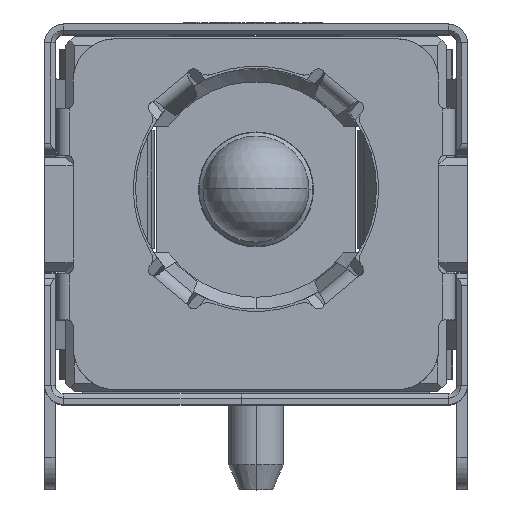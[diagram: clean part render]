
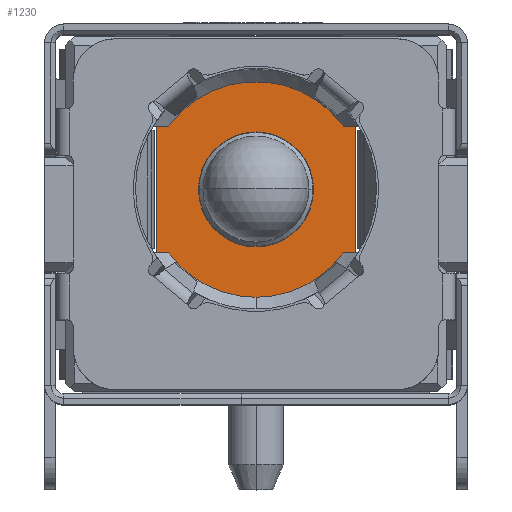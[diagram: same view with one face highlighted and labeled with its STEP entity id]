
A CAD part, top view. The second image highlights one B-rep face of the part: STEP entity #1230.
In plain terms, the highlighted planar face has unit normal (0, 0, 1).
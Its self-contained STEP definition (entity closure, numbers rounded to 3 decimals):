
#175 = CARTESIAN_POINT ( 'NONE',  ( 0., 0., 5.7 ) ) ;
#991 = DIRECTION ( 'NONE',  ( -0.809, 0.588, 0. ) ) ;
#1230 = ADVANCED_FACE ( 'NONE', ( #32764, #39873 ), #1698, .T. ) ;
#1322 = ORIENTED_EDGE ( 'NONE', *, *, #25763, .T. ) ;
#1698 = PLANE ( 'NONE',  #39798 ) ;
#2232 = ORIENTED_EDGE ( 'NONE', *, *, #26530, .F. ) ;
#2287 = LINE ( 'NONE', #26898, #23408 ) ;
#2611 = AXIS2_PLACEMENT_3D ( 'NONE', #24204, #6709, #44863 ) ;
#2738 = EDGE_CURVE ( 'NONE', #4355, #16660, #2287, .T. ) ;
#2890 = CARTESIAN_POINT ( 'NONE',  ( -2.062, 1.5, 5.7 ) ) ;
#3291 = VERTEX_POINT ( 'NONE', #28100 ) ;
#4355 = VERTEX_POINT ( 'NONE', #12040 ) ;
#4512 = VERTEX_POINT ( 'NONE', #15712 ) ;
#4662 = CARTESIAN_POINT ( 'NONE',  ( -2.35, 1.5, 5.7 ) ) ;
#4669 = DIRECTION ( 'NONE',  ( 0., 1., 0. ) ) ;
#4671 = VECTOR ( 'NONE', #33979, 1000. ) ;
#5280 = VERTEX_POINT ( 'NONE', #17390 ) ;
#5943 = CIRCLE ( 'NONE', #11843, 1.36 ) ;
#6709 = DIRECTION ( 'NONE',  ( 0., 0., -1. ) ) ;
#7065 = DIRECTION ( 'NONE',  ( 0., 0., -1. ) ) ;
#7085 = ORIENTED_EDGE ( 'NONE', *, *, #40447, .T. ) ;
#8184 = VECTOR ( 'NONE', #43739, 1000. ) ;
#8532 = CIRCLE ( 'NONE', #43016, 2.55 ) ;
#9640 = VERTEX_POINT ( 'NONE', #33262 ) ;
#10107 = CARTESIAN_POINT ( 'NONE',  ( 2.062, 1.5, 5.7 ) ) ;
#10953 = DIRECTION ( 'NONE',  ( 0., 0., -1. ) ) ;
#11363 = LINE ( 'NONE', #39390, #34229 ) ;
#11843 = AXIS2_PLACEMENT_3D ( 'NONE', #15505, #10953, #4669 ) ;
#11976 = VERTEX_POINT ( 'NONE', #10107 ) ;
#11987 = DIRECTION ( 'NONE',  ( 1., 0., 0. ) ) ;
#12040 = CARTESIAN_POINT ( 'NONE',  ( -2.35, -1.5, 5.7 ) ) ;
#12255 = DIRECTION ( 'NONE',  ( -1., 0., 0. ) ) ;
#12474 = CARTESIAN_POINT ( 'NONE',  ( -2.062, -1.5, 5.7 ) ) ;
#14709 = DIRECTION ( 'NONE',  ( 0., 0., -1. ) ) ;
#15093 = EDGE_LOOP ( 'NONE', ( #21427, #39595, #28513, #22116, #37277, #31752, #16095, #7085, #2232 ) ) ;
#15183 = EDGE_LOOP ( 'NONE', ( #1322, #34253 ) ) ;
#15505 = CARTESIAN_POINT ( 'NONE',  ( 0., 0., 5.7 ) ) ;
#15712 = CARTESIAN_POINT ( 'NONE',  ( 2.062, -1.5, 5.7 ) ) ;
#16095 = ORIENTED_EDGE ( 'NONE', *, *, #30735, .F. ) ;
#16660 = VERTEX_POINT ( 'NONE', #4662 ) ;
#17208 = VECTOR ( 'NONE', #41615, 1000. ) ;
#17229 = EDGE_CURVE ( 'NONE', #4355, #45364, #22806, .T. ) ;
#17390 = CARTESIAN_POINT ( 'NONE',  ( 0., -1.36, 5.7 ) ) ;
#19058 = CARTESIAN_POINT ( 'NONE',  ( 2.35, 1.5, 5.7 ) ) ;
#19123 = CARTESIAN_POINT ( 'NONE',  ( -2.35, -1.5, 5.7 ) ) ;
#19681 = AXIS2_PLACEMENT_3D ( 'NONE', #175, #7065, #41547 ) ;
#20099 = LINE ( 'NONE', #33657, #8184 ) ;
#20236 = DIRECTION ( 'NONE',  ( 0., 1., 0. ) ) ;
#21427 = ORIENTED_EDGE ( 'NONE', *, *, #26511, .T. ) ;
#22116 = ORIENTED_EDGE ( 'NONE', *, *, #28651, .F. ) ;
#22806 = LINE ( 'NONE', #19123, #35144 ) ;
#23408 = VECTOR ( 'NONE', #20236, 1000. ) ;
#24204 = CARTESIAN_POINT ( 'NONE',  ( 0., 0., 5.7 ) ) ;
#24614 = EDGE_CURVE ( 'NONE', #4512, #3291, #41168, .T. ) ;
#25763 = EDGE_CURVE ( 'NONE', #5280, #45003, #28301, .T. ) ;
#26511 = EDGE_CURVE ( 'NONE', #32935, #16660, #11363, .T. ) ;
#26530 = EDGE_CURVE ( 'NONE', #32935, #11976, #8532, .T. ) ;
#26898 = CARTESIAN_POINT ( 'NONE',  ( -2.35, -1.5, 5.7 ) ) ;
#27792 = AXIS2_PLACEMENT_3D ( 'NONE', #45265, #14709, #28723 ) ;
#28100 = CARTESIAN_POINT ( 'NONE',  ( 2.35, -1.5, 5.7 ) ) ;
#28301 = CIRCLE ( 'NONE', #2611, 1.36 ) ;
#28513 = ORIENTED_EDGE ( 'NONE', *, *, #17229, .T. ) ;
#28651 = EDGE_CURVE ( 'NONE', #9640, #45364, #34373, .T. ) ;
#28723 = DIRECTION ( 'NONE',  ( 0.809, -0.588, 0. ) ) ;
#29319 = CARTESIAN_POINT ( 'NONE',  ( 0., 1.36, 5.7 ) ) ;
#29543 = DIRECTION ( 'NONE',  ( 1., 0., 0. ) ) ;
#29717 = DIRECTION ( 'NONE',  ( 0., 0., -1. ) ) ;
#30012 = CIRCLE ( 'NONE', #27792, 2.55 ) ;
#30735 = EDGE_CURVE ( 'NONE', #37839, #3291, #39943, .T. ) ;
#31752 = ORIENTED_EDGE ( 'NONE', *, *, #24614, .T. ) ;
#32511 = CARTESIAN_POINT ( 'NONE',  ( 0., 0., 5.7 ) ) ;
#32764 = FACE_BOUND ( 'NONE', #15183, .T. ) ;
#32935 = VERTEX_POINT ( 'NONE', #2890 ) ;
#33262 = CARTESIAN_POINT ( 'NONE',  ( 0., -2.55, 5.7 ) ) ;
#33657 = CARTESIAN_POINT ( 'NONE',  ( 2.35, 1.5, 5.7 ) ) ;
#33979 = DIRECTION ( 'NONE',  ( 0., -1., 0. ) ) ;
#34229 = VECTOR ( 'NONE', #12255, 1000. ) ;
#34253 = ORIENTED_EDGE ( 'NONE', *, *, #40268, .T. ) ;
#34373 = CIRCLE ( 'NONE', #19681, 2.55 ) ;
#35144 = VECTOR ( 'NONE', #11987, 1000. ) ;
#36310 = EDGE_CURVE ( 'NONE', #4512, #9640, #30012, .T. ) ;
#37277 = ORIENTED_EDGE ( 'NONE', *, *, #36310, .F. ) ;
#37839 = VERTEX_POINT ( 'NONE', #39901 ) ;
#39390 = CARTESIAN_POINT ( 'NONE',  ( -2.062, 1.5, 5.7 ) ) ;
#39595 = ORIENTED_EDGE ( 'NONE', *, *, #2738, .F. ) ;
#39798 = AXIS2_PLACEMENT_3D ( 'NONE', #43100, #43757, #29543 ) ;
#39873 = FACE_OUTER_BOUND ( 'NONE', #15093, .T. ) ;
#39901 = CARTESIAN_POINT ( 'NONE',  ( 2.35, 1.5, 5.7 ) ) ;
#39943 = LINE ( 'NONE', #19058, #4671 ) ;
#40268 = EDGE_CURVE ( 'NONE', #45003, #5280, #5943, .T. ) ;
#40447 = EDGE_CURVE ( 'NONE', #37839, #11976, #20099, .T. ) ;
#41168 = LINE ( 'NONE', #45050, #17208 ) ;
#41547 = DIRECTION ( 'NONE',  ( 0.809, -0.588, 0. ) ) ;
#41615 = DIRECTION ( 'NONE',  ( 1., 0., 0. ) ) ;
#43016 = AXIS2_PLACEMENT_3D ( 'NONE', #32511, #29717, #991 ) ;
#43100 = CARTESIAN_POINT ( 'NONE',  ( 0., 0., 5.7 ) ) ;
#43739 = DIRECTION ( 'NONE',  ( -1., 0., 0. ) ) ;
#43757 = DIRECTION ( 'NONE',  ( 0., 0., 1. ) ) ;
#44863 = DIRECTION ( 'NONE',  ( 0., -1., 0. ) ) ;
#45003 = VERTEX_POINT ( 'NONE', #29319 ) ;
#45050 = CARTESIAN_POINT ( 'NONE',  ( 2.062, -1.5, 5.7 ) ) ;
#45265 = CARTESIAN_POINT ( 'NONE',  ( 0., 0., 5.7 ) ) ;
#45364 = VERTEX_POINT ( 'NONE', #12474 ) ;
